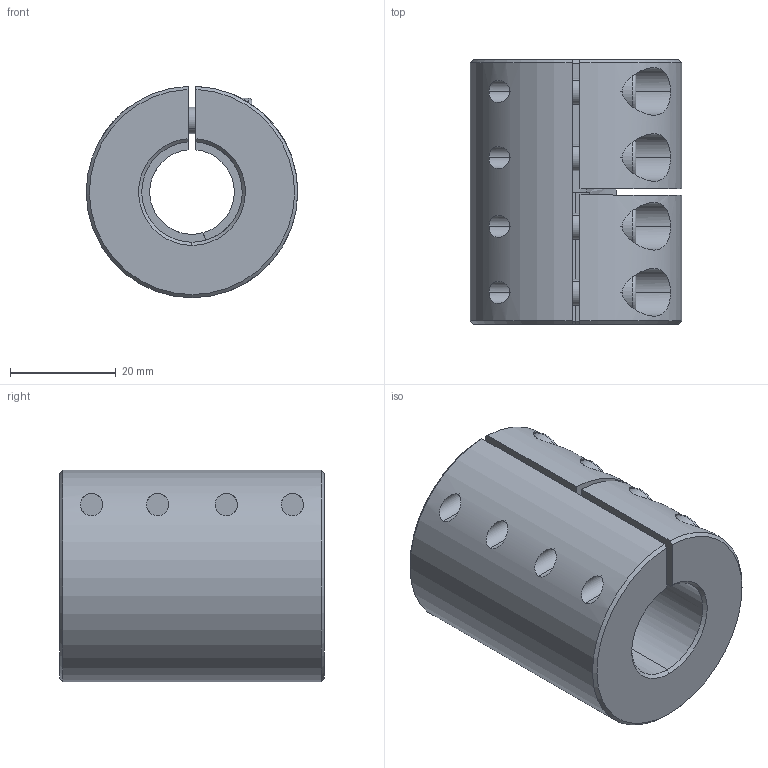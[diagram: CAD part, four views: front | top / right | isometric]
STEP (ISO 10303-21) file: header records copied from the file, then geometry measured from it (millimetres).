
FILE_DESCRIPTION (( 'STEP AP214' ), '1' );
FILE_NAME ('LL-B-D40L50-16-19½¨Ä£.STEP', '2022-07-22T00:26:34', ( '' ), ( '' ), 'SwSTEP 2.0', 'SolidWorks 2022', '' );
FILE_SCHEMA (( 'AUTOMOTIVE_DESIGN' ));
Length unit declared in the file: millimetre
Products named in the file (1): LL-B-D40L50-16-19膘耀
Bounding box: 40 x 50 x 39.99 mm (x, y, z)
Volume: 47857.8 mm3; surface area: 15388.2 mm2
Topology: 1 solids, 1 shells, 176 faces, 444 edges, 278 vertices
Faces by surface type: plane 84, cylinder 70, cone 14, torus 8
Entity records: 5801 total; most frequent: CARTESIAN_POINT 1475, DIRECTION 941, ORIENTED_EDGE 872, EDGE_CURVE 436, AXIS2_PLACEMENT_3D 368, VERTEX_POINT 278, EDGE_LOOP 208, LINE 205
